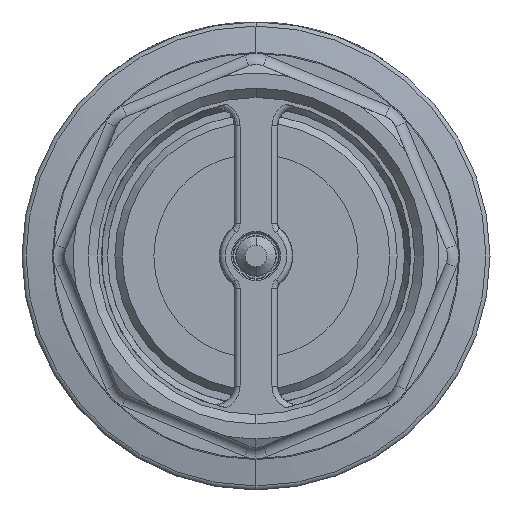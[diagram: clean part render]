
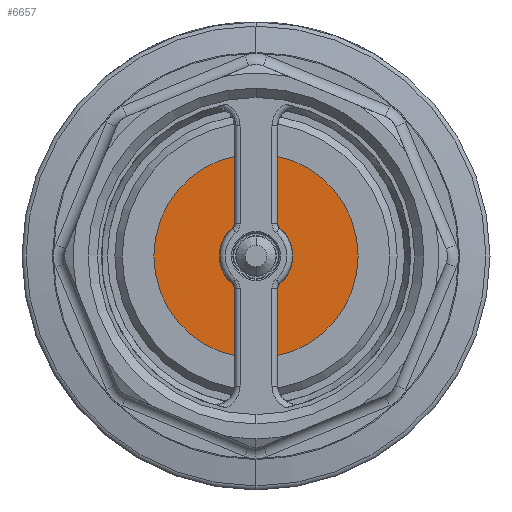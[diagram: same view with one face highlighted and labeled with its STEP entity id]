
A CAD part, front view. The second image highlights one B-rep face of the part: STEP entity #6657.
In plain terms, the highlighted planar face has unit normal (0, -1, 0).
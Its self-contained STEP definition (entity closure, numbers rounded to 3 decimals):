
#43 = DIRECTION ( 'NONE',  ( 0., -1., 0. ) ) ;
#719 = DIRECTION ( 'NONE',  ( 0., -1., 0. ) ) ;
#1381 = CARTESIAN_POINT ( 'NONE',  ( 0., -76., 0. ) ) ;
#2007 = FACE_OUTER_BOUND ( 'NONE', #24592, .T. ) ;
#3498 = DIRECTION ( 'NONE',  ( 0., 0., -1. ) ) ;
#3661 = DIRECTION ( 'NONE',  ( 0., -1., 0. ) ) ;
#4863 = DIRECTION ( 'NONE',  ( 0., -1., 0. ) ) ;
#5669 = CIRCLE ( 'NONE', #22083, 27.5 ) ;
#6623 = EDGE_LOOP ( 'NONE', ( #20881, #19819 ) ) ;
#6657 = ADVANCED_FACE ( 'NONE', ( #2007, #7606 ), #23719, .T. ) ;
#7606 = FACE_BOUND ( 'NONE', #6623, .T. ) ;
#7897 = VERTEX_POINT ( 'NONE', #20330 ) ;
#9298 = CARTESIAN_POINT ( 'NONE',  ( 0., -76., -9. ) ) ;
#9619 = CIRCLE ( 'NONE', #25133, 9. ) ;
#11184 = CARTESIAN_POINT ( 'NONE',  ( 9., -76., 0. ) ) ;
#11415 = AXIS2_PLACEMENT_3D ( 'NONE', #12619, #43, #14710 ) ;
#12619 = CARTESIAN_POINT ( 'NONE',  ( 0., -76., 0. ) ) ;
#13913 = CIRCLE ( 'NONE', #11415, 27.5 ) ;
#14710 = DIRECTION ( 'NONE',  ( 0., 0., -1. ) ) ;
#15113 = ORIENTED_EDGE ( 'NONE', *, *, #24334, .T. ) ;
#15403 = DIRECTION ( 'NONE',  ( 0., 0., -1. ) ) ;
#16067 = DIRECTION ( 'NONE',  ( 0., -1., 0. ) ) ;
#16239 = CARTESIAN_POINT ( 'NONE',  ( 0., -76., 0. ) ) ;
#16735 = VERTEX_POINT ( 'NONE', #23908 ) ;
#17448 = CARTESIAN_POINT ( 'NONE',  ( 0., -76., 0. ) ) ;
#17790 = CIRCLE ( 'NONE', #27113, 9. ) ;
#18331 = DIRECTION ( 'NONE',  ( 0., 0., -1. ) ) ;
#18984 = EDGE_CURVE ( 'NONE', #16735, #7897, #13913, .T. ) ;
#19527 = DIRECTION ( 'NONE',  ( 0., 0., -1. ) ) ;
#19819 = ORIENTED_EDGE ( 'NONE', *, *, #25016, .F. ) ;
#19853 = CARTESIAN_POINT ( 'NONE',  ( 0., -76., 9. ) ) ;
#20330 = CARTESIAN_POINT ( 'NONE',  ( 0., -76., -27.5 ) ) ;
#20452 = VERTEX_POINT ( 'NONE', #19853 ) ;
#20881 = ORIENTED_EDGE ( 'NONE', *, *, #21487, .F. ) ;
#21487 = EDGE_CURVE ( 'NONE', #21548, #20452, #9619, .T. ) ;
#21548 = VERTEX_POINT ( 'NONE', #9298 ) ;
#22083 = AXIS2_PLACEMENT_3D ( 'NONE', #1381, #16067, #3498 ) ;
#22982 = ORIENTED_EDGE ( 'NONE', *, *, #18984, .T. ) ;
#23719 = PLANE ( 'NONE',  #24000 ) ;
#23908 = CARTESIAN_POINT ( 'NONE',  ( 0., -76., 27.5 ) ) ;
#24000 = AXIS2_PLACEMENT_3D ( 'NONE', #11184, #719, #15403 ) ;
#24334 = EDGE_CURVE ( 'NONE', #7897, #16735, #5669, .T. ) ;
#24592 = EDGE_LOOP ( 'NONE', ( #15113, #22982 ) ) ;
#25016 = EDGE_CURVE ( 'NONE', #20452, #21548, #17790, .T. ) ;
#25133 = AXIS2_PLACEMENT_3D ( 'NONE', #17448, #4863, #19527 ) ;
#27113 = AXIS2_PLACEMENT_3D ( 'NONE', #16239, #3661, #18331 ) ;
